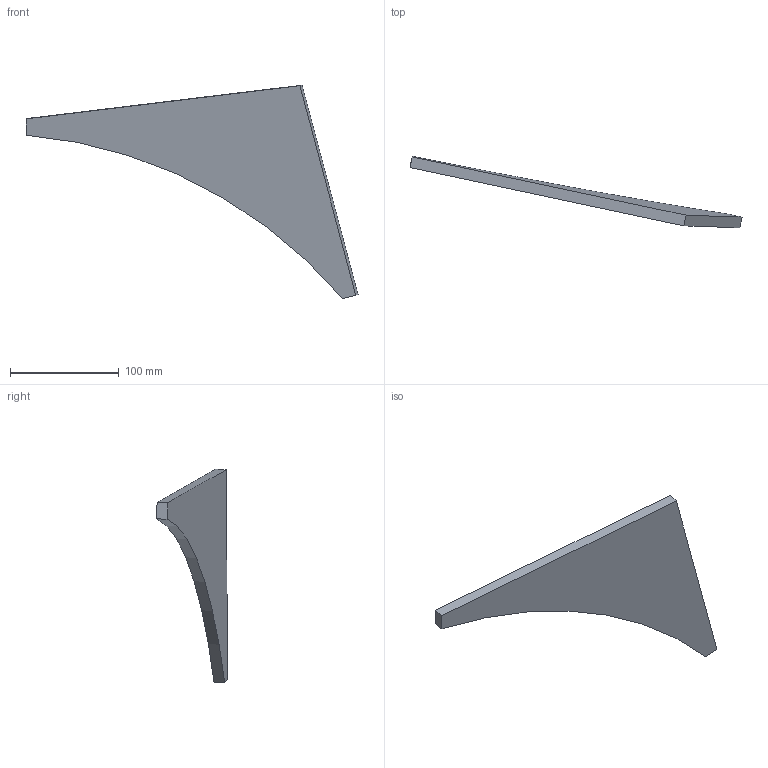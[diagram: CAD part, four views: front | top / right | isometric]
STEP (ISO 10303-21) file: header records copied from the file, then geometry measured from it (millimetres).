
FILE_DESCRIPTION(('FreeCAD Model'),'2;1');
FILE_NAME( 'C:/Users/Sergio Pluchinsky/Downloads/Neues 3D Blechteil (1).step', '2017-11-27T19:20:11',('Author'),(''), 'Open CASCADE STEP processor 7.1','FreeCAD','Unknown');
FILE_SCHEMA(('AUTOMOTIVE_DESIGN { 1 0 10303 214 1 1 1 1 }'));
Length unit declared in the file: millimetre
Products named in the file (1): Neues_3D_Blechteil_(1)
Bounding box: 304.87 x 65.47 x 196.09 mm (x, y, z)
Volume: 219531.7 mm3; surface area: 52165.9 mm2
Topology: 1 solids, 1 shells, 7 faces, 15 edges, 10 vertices
Faces by surface type: plane 6, cylinder 1
Entity records: 407 total; most frequent: CARTESIAN_POINT 63, DIRECTION 63, LINE 41, VECTOR 41, ORIENTED_EDGE 30, PCURVE 30, DEFINITIONAL_REPRESENTATION 30, EDGE_CURVE 15
